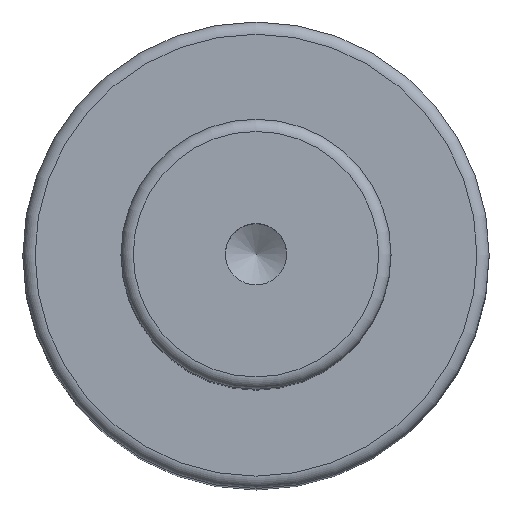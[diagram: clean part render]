
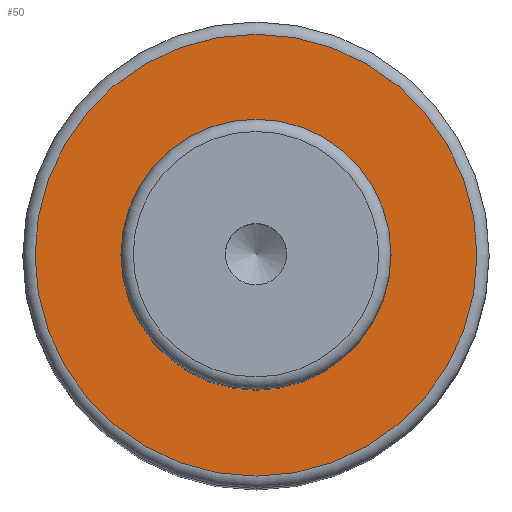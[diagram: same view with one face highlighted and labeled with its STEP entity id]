
A CAD part, top view. The second image highlights one B-rep face of the part: STEP entity #50.
In plain terms, the highlighted planar face has unit normal (0, 0, 1).
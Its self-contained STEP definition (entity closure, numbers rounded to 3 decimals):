
#40=PLANE('',#179);
#50=ADVANCED_FACE('',(#72,#73),#40,.F.);
#72=FACE_BOUND('',#96,.T.);
#73=FACE_BOUND('',#97,.T.);
#96=EDGE_LOOP('',(#118));
#97=EDGE_LOOP('',(#119));
#118=ORIENTED_EDGE('',*,*,#149,.F.);
#119=ORIENTED_EDGE('',*,*,#148,.T.);
#135=VERTEX_POINT('',#256);
#136=VERTEX_POINT('',#259);
#148=EDGE_CURVE('',#135,#135,#159,.T.);
#149=EDGE_CURVE('',#136,#136,#160,.T.);
#159=CIRCLE('',#176,11.);
#160=CIRCLE('',#178,18.);
#176=AXIS2_PLACEMENT_3D('',#255,#213,#214);
#178=AXIS2_PLACEMENT_3D('',#258,#217,#218);
#179=AXIS2_PLACEMENT_3D('',#260,#219,#220);
#213=DIRECTION('',(0.,0.,-1.));
#214=DIRECTION('',(-1.,0.,0.));
#217=DIRECTION('',(0.,0.,-1.));
#218=DIRECTION('',(-1.,0.,0.));
#219=DIRECTION('',(0.,0.,-1.));
#220=DIRECTION('',(-1.,0.,0.));
#255=CARTESIAN_POINT('',(0.,0.,74.));
#256=CARTESIAN_POINT('',(-11.,0.,74.));
#258=CARTESIAN_POINT('',(0.,0.,74.));
#259=CARTESIAN_POINT('',(-18.,0.,74.));
#260=CARTESIAN_POINT('',(11.,0.,74.));
